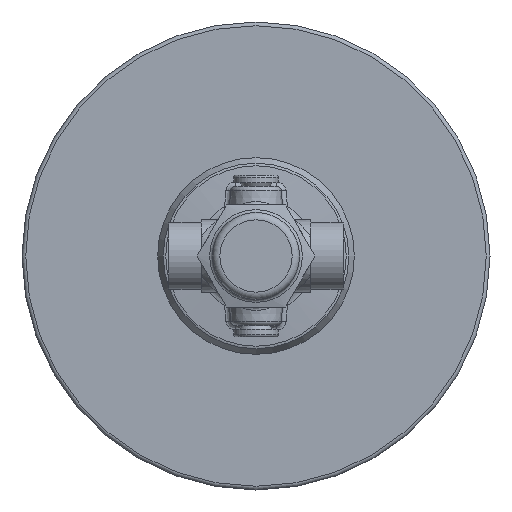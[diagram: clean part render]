
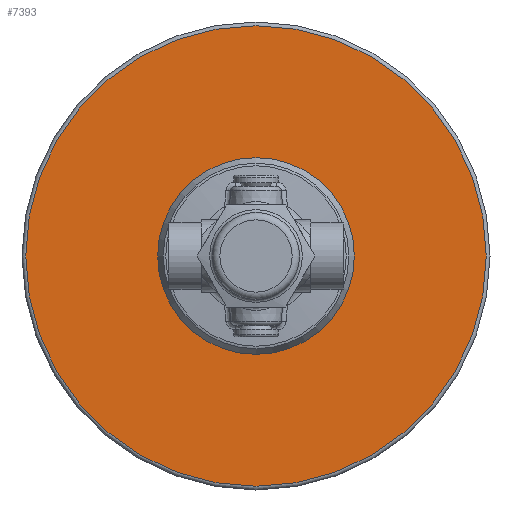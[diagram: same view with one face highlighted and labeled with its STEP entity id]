
A CAD part, front view. The second image highlights one B-rep face of the part: STEP entity #7393.
In plain terms, the highlighted planar face has unit normal (0, -1, 0).
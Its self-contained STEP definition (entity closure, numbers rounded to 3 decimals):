
#251=FACE_BOUND('',#1305,.T.);
#466=PLANE('',#8013);
#794=FACE_OUTER_BOUND('',#1304,.T.);
#1304=EDGE_LOOP('',(#5185));
#1305=EDGE_LOOP('',(#5186));
#2631=CIRCLE('',#8001,92.5);
#2634=CIRCLE('',#8005,36.2);
#3162=VERTEX_POINT('',#11601);
#3164=VERTEX_POINT('',#11607);
#3908=EDGE_CURVE('',#3162,#3162,#2631,.T.);
#3912=EDGE_CURVE('',#3164,#3164,#2634,.T.);
#5185=ORIENTED_EDGE('',*,*,#3908,.T.);
#5186=ORIENTED_EDGE('',*,*,#3912,.F.);
#7393=ADVANCED_FACE('',(#794,#251),#466,.T.);
#8001=AXIS2_PLACEMENT_3D('',#11602,#9177,#9178);
#8005=AXIS2_PLACEMENT_3D('',#11609,#9186,#9187);
#8013=AXIS2_PLACEMENT_3D('',#11621,#9204,#9205);
#9177=DIRECTION('center_axis',(0.,-1.,0.));
#9178=DIRECTION('ref_axis',(0.,0.,-1.));
#9186=DIRECTION('center_axis',(0.,-1.,0.));
#9187=DIRECTION('ref_axis',(0.,0.,-1.));
#9204=DIRECTION('center_axis',(0.,-1.,0.));
#9205=DIRECTION('ref_axis',(0.,0.,
-1.));
#11601=CARTESIAN_POINT('',(0.,54.5,92.5));
#11602=CARTESIAN_POINT('Origin',(0.,54.5,0.));
#11607=CARTESIAN_POINT('',(0.,54.5,36.2));
#11609=CARTESIAN_POINT('Origin',(0.,54.5,0.));
#11621=CARTESIAN_POINT('Origin',(92.5,54.5,0.));
